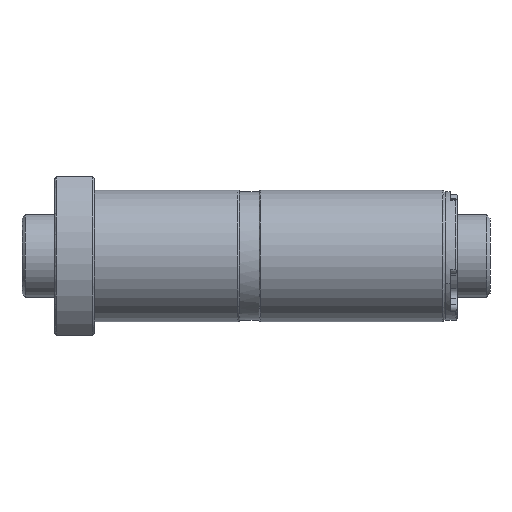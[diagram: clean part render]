
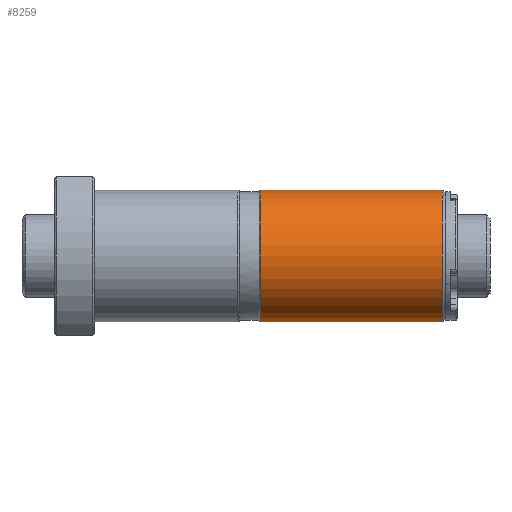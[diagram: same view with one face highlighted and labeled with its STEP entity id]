
A CAD part, front view. The second image highlights one B-rep face of the part: STEP entity #8259.
In plain terms, the highlighted cylindrical face has radius 20 mm (diameter 40 mm), a partial arc.
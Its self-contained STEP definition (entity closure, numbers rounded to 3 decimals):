
#150 = LINE ( 'NONE', #977, #9794 ) ;
#153 = CARTESIAN_POINT ( 'NONE',  ( 117.5, 0., -20. ) ) ;
#209 = DIRECTION ( 'NONE',  ( -1., 0., 0. ) ) ;
#357 = VERTEX_POINT ( 'NONE', #9758 ) ;
#674 = CARTESIAN_POINT ( 'NONE',  ( 62.5, 0., 0. ) ) ;
#718 = EDGE_CURVE ( 'NONE', #2201, #357, #150, .T. ) ;
#760 = FACE_OUTER_BOUND ( 'NONE', #1021, .T. ) ;
#790 = DIRECTION ( 'NONE',  ( 1., 0., 0. ) ) ;
#977 = CARTESIAN_POINT ( 'NONE',  ( 118., 0., 20. ) ) ;
#1021 = EDGE_LOOP ( 'NONE', ( #10054, #3965, #4637, #10877 ) ) ;
#1377 = VERTEX_POINT ( 'NONE', #153 ) ;
#1695 = AXIS2_PLACEMENT_3D ( 'NONE', #4063, #3190, #4098 ) ;
#2201 = VERTEX_POINT ( 'NONE', #9511 ) ;
#2576 = CARTESIAN_POINT ( 'NONE',  ( 62.5, 0., -20. ) ) ;
#2672 = VECTOR ( 'NONE', #5867, 1000. ) ;
#2907 = DIRECTION ( 'NONE',  ( 0., 0., 1. ) ) ;
#3190 = DIRECTION ( 'NONE',  ( -1., 0., 0. ) ) ;
#3210 = LINE ( 'NONE', #6649, #2672 ) ;
#3965 = ORIENTED_EDGE ( 'NONE', *, *, #5790, .T. ) ;
#4063 = CARTESIAN_POINT ( 'NONE',  ( 117.5, 0., 0. ) ) ;
#4098 = DIRECTION ( 'NONE',  ( 0., 0., 1. ) ) ;
#4637 = ORIENTED_EDGE ( 'NONE', *, *, #718, .T. ) ;
#4922 = DIRECTION ( 'NONE',  ( 0., 0., 1. ) ) ;
#5187 = CIRCLE ( 'NONE', #8753, 20. ) ;
#5571 = DIRECTION ( 'NONE',  ( -1., 0., 0. ) ) ;
#5590 = CYLINDRICAL_SURFACE ( 'NONE', #10677, 20. ) ;
#5790 = EDGE_CURVE ( 'NONE', #1377, #2201, #6401, .T. ) ;
#5867 = DIRECTION ( 'NONE',  ( -1., 0., 0. ) ) ;
#6401 = CIRCLE ( 'NONE', #1695, 20. ) ;
#6649 = CARTESIAN_POINT ( 'NONE',  ( 118., 0., -20. ) ) ;
#6997 = EDGE_CURVE ( 'NONE', #1377, #7122, #3210, .T. ) ;
#7122 = VERTEX_POINT ( 'NONE', #2576 ) ;
#8259 = ADVANCED_FACE ( 'NONE', ( #760 ), #5590, .T. ) ;
#8543 = EDGE_CURVE ( 'NONE', #357, #7122, #5187, .T. ) ;
#8753 = AXIS2_PLACEMENT_3D ( 'NONE', #674, #790, #4922 ) ;
#9511 = CARTESIAN_POINT ( 'NONE',  ( 117.5, 0., 20. ) ) ;
#9758 = CARTESIAN_POINT ( 'NONE',  ( 62.5, 0., 20. ) ) ;
#9794 = VECTOR ( 'NONE', #209, 1000. ) ;
#10054 = ORIENTED_EDGE ( 'NONE', *, *, #6997, .F. ) ;
#10551 = CARTESIAN_POINT ( 'NONE',  ( 118., 0., 0. ) ) ;
#10677 = AXIS2_PLACEMENT_3D ( 'NONE', #10551, #5571, #2907 ) ;
#10877 = ORIENTED_EDGE ( 'NONE', *, *, #8543, .T. ) ;
